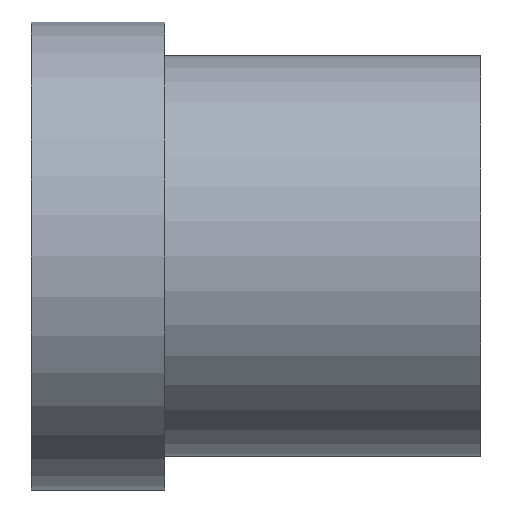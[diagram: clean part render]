
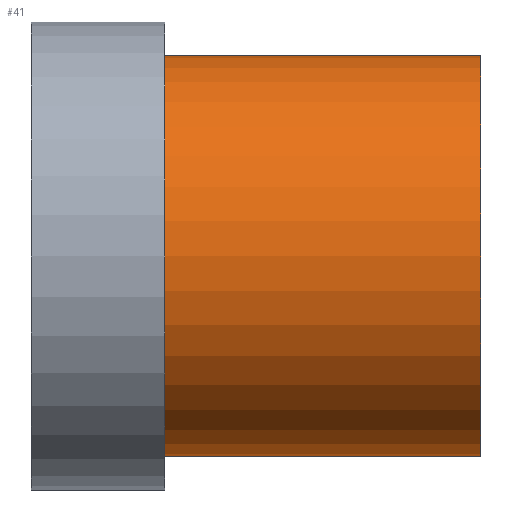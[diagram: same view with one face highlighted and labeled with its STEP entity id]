
A CAD part, front view. The second image highlights one B-rep face of the part: STEP entity #41.
In plain terms, the highlighted cylindrical face has radius 6 mm (diameter 12 mm), a full revolution.
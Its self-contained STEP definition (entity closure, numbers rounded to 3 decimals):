
#34=CYLINDRICAL_SURFACE('',#109,6.);
#41=ADVANCED_FACE('',(#52,#53),#34,.T.);
#52=FACE_BOUND('',#63,.T.);
#53=FACE_BOUND('',#64,.T.);
#63=EDGE_LOOP('',(#75));
#64=EDGE_LOOP('',(#76));
#75=ORIENTED_EDGE('',*,*,#93,.T.);
#76=ORIENTED_EDGE('',*,*,#92,.F.);
#86=VERTEX_POINT('',#151);
#87=VERTEX_POINT('',#154);
#92=EDGE_CURVE('',#86,#86,#98,.T.);
#93=EDGE_CURVE('',#87,#87,#99,.T.);
#98=CIRCLE('',#106,6.);
#99=CIRCLE('',#108,6.);
#106=AXIS2_PLACEMENT_3D('',#150,#124,#125);
#108=AXIS2_PLACEMENT_3D('',#153,#128,#129);
#109=AXIS2_PLACEMENT_3D('',#155,#130,#131);
#124=DIRECTION('',(1.,0.,0.));
#125=DIRECTION('',(0.,1.,0.));
#128=DIRECTION('',(1.,0.,0.));
#129=DIRECTION('',(0.,1.,0.));
#130=DIRECTION('',(1.,0.,0.));
#131=DIRECTION('',(0.,1.,0.));
#150=CARTESIAN_POINT('',(13.46,0.,0.));
#151=CARTESIAN_POINT('',(13.46,6.,0.));
#153=CARTESIAN_POINT('',(4.,0.,0.));
#154=CARTESIAN_POINT('',(4.,6.,0.));
#155=CARTESIAN_POINT('',(0.,0.,0.));
